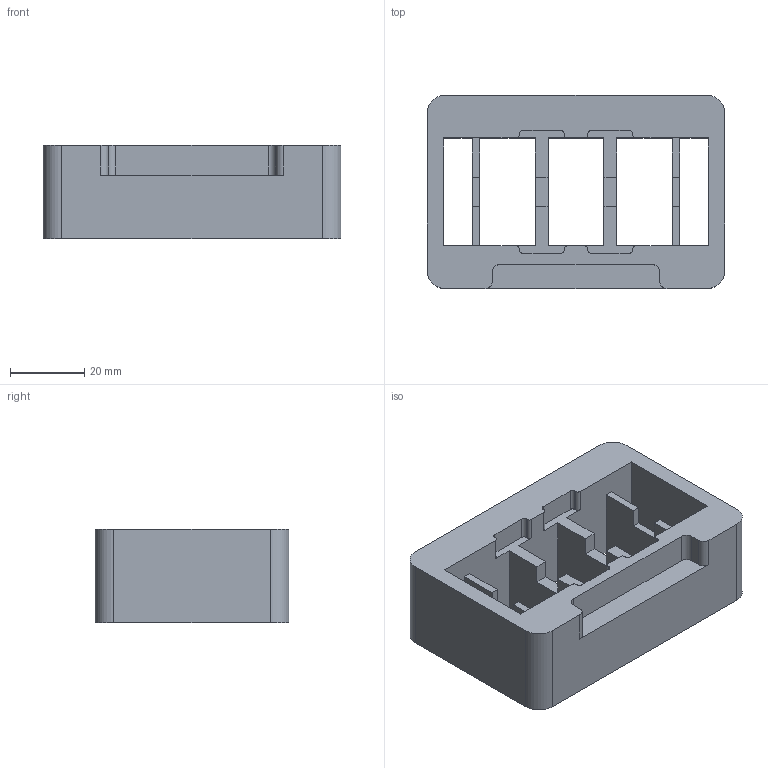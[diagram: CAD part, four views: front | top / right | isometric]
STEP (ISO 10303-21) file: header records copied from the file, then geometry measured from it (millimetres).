
FILE_DESCRIPTION(('CATIA V5 STEP Exchange'),'2;1');
FILE_NAME('D:\姚明阳\1、工装图纸\2、腰托阀（开关）治具工装 -2022.11.26更新\AGZL03 底座螺装治具\AGZL03 设计文件（可编辑版）\AGZL03.02_V2.stp','2023-09-07T05:33:01+00:00',('none'),('none'),'CATIA Version 5 Release 21 GA (IN-10)','CATIA V5 STEP AP214','none');
FILE_SCHEMA(('AUTOMOTIVE_DESIGN { 1 0 10303 214 1 1 1 1 }'));
Length unit declared in the file: millimetre
Products named in the file (1): Part2
Bounding box: 80 x 52 x 25 mm (x, y, z)
Volume: 54205.3 mm3; surface area: 20574.5 mm2
Topology: 1 solids, 1 shells, 94 faces, 284 edges, 192 vertices
Faces by surface type: plane 62, cylinder 32
Entity records: 3009 total; most frequent: ORIENTED_EDGE 568, CARTESIAN_POINT 538, DIRECTION 406, EDGE_CURVE 284, VECTOR 220, LINE 220, VERTEX_POINT 192, AXIS2_PLACEMENT_3D 126
